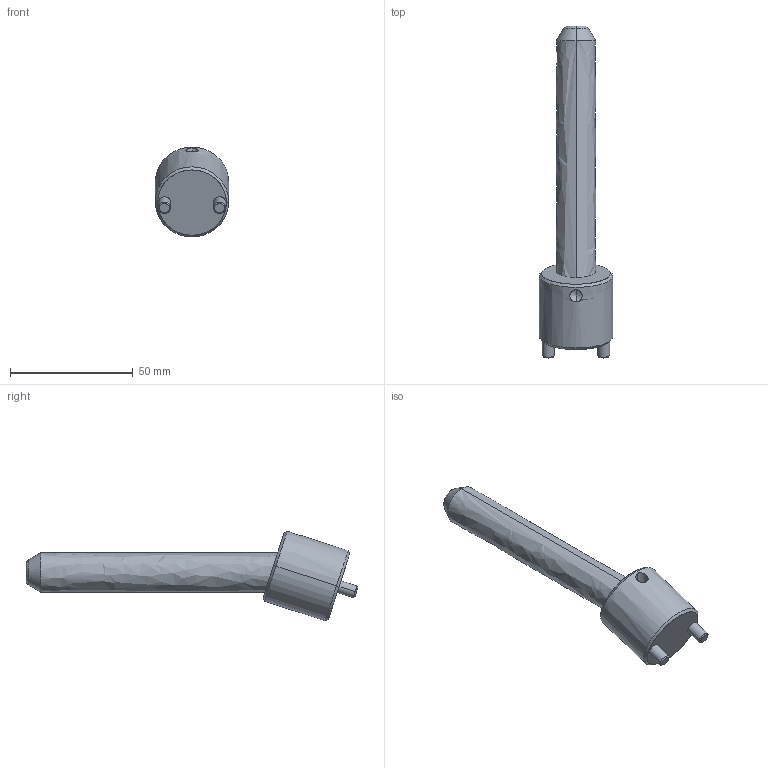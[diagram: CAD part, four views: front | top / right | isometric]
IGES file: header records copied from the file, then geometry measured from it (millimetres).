
Start section: START RECORD GO HERE.
Global section: file name: CI1816100.igs; native system: DASSAULT SYSTEMES CATIA V5 R20 - www.3ds.com; preprocessor: CATIA Version 5 Release 20 ; author: r.borello; organization: CFTORINO; date: 20190624.094300; units: millimetre
Bounding box: 30 x 135.31 x 36.57 mm (x, y, z)
Surface area: 11954.4 mm2 (no closed solid volume)
Topology: 0 solids, 0 shells, 39 faces, 162 edges, 160 vertices
Faces by surface type: revolution 32, plane 7
